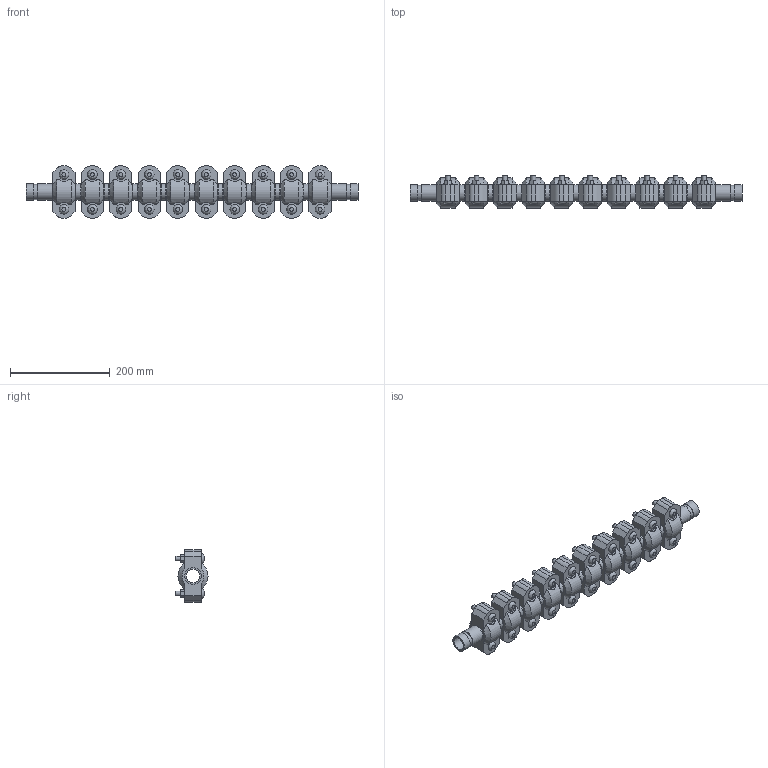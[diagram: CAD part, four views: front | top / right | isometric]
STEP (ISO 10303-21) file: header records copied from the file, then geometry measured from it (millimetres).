
FILE_DESCRIPTION(/* description */ ('VIC EXPANSION JOINT 10 COUPLINGS COMPRESSED STYLE 155 (OGS)','CAx-IF Rec.Pracs.---Representation and Presentation of Product Manufacturing Information (PMI)---4.0---2014-10-13'),/* implementation_level */ '2;1');
FILE_NAME(/* name */ 'C:\Users\kkamble\AppData\Roaming\Autodesk\ApplicationPlugins\Victaulic.Temp\A539\Victaulic_IPS_Expansion Joint_Compressed_10 Couplings_Style 155 (OGS)_1 (25).stp',/* time_stamp */ '2021-06-27T00:16:07+02:00',/* author */ ('kkamble'),/* organization */ ('Victaulic'),/* preprocessor_version */ 'ST-DEVELOPER v17.2',/* originating_system */ 'Autodesk Inventor 2019',/* authorisation */ '');
FILE_SCHEMA (('AP242_MANAGED_MODEL_BASED_3D_ENGINEERING_MIM_LF { 1 0 10303 442 1 1 4 }'));
Length unit declared in the file: inch
Products named in the file (4): 155-01.0; Nipple-01.0; Nipple-01.0_1; 077-01.0
Assembly tree (21 placements, depth 2):
  155-01.0
    Nipple-01.0  x2
    Nipple-01.0_1  x9
    077-01.0  x10
Bounding box: 666.75 x 64.33 x 104.65 mm (x, y, z)
Volume: 1637000.9 mm3; surface area: 424201.2 mm2
Topology: 21 solids, 41 shells, 702 faces, 1720 edges, 1204 vertices
Faces by surface type: plane 406, cylinder 236, cone 40, bspline 20
Full cylindrical faces by diameter (mm): 9.525 x40, 11.43 x20, 26.645 x11, 30.226 x22, 33.401 x43
Entity records: 2971 total; most frequent: CARTESIAN_POINT 567, DIRECTION 487, ORIENTED_EDGE 398, EDGE_CURVE 199, AXIS2_PLACEMENT_3D 196, VERTEX_POINT 142, EDGE_LOOP 105, LINE 95
